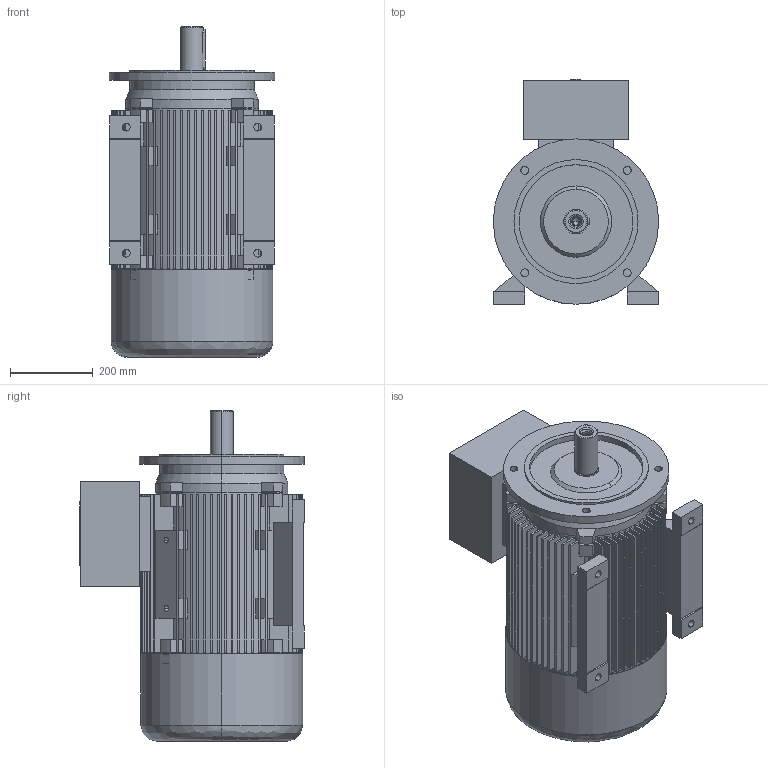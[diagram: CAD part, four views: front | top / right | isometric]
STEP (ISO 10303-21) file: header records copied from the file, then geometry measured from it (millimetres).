
FILE_DESCRIPTION (( 'STEP AP203' ), '1' );
FILE_NAME ('20.18424_C 7AT 200 B35 Exd STANDK.STEP', '2018-05-21T12:58:40', ( '' ), ( '' ), 'SwSTEP 2.0', 'SolidWorks 2017', '' );
FILE_SCHEMA (( 'CONFIG_CONTROL_DESIGN' ));
Length unit declared in the file: millimetre
Products named in the file (1): 20.18424_C 7AT 200 B35 Exd STANDK
Bounding box: 400 x 544 x 800 mm (x, y, z)
Volume: 32183097.8 mm3; surface area: 4415883.6 mm2
Topology: 6 solids, 6 shells, 813 faces, 2189 edges, 1433 vertices
Faces by surface type: plane 572, cylinder 190, cone 38, bspline 13
Entity records: 26139 total; most frequent: CARTESIAN_POINT 5251, DIRECTION 4357, ORIENTED_EDGE 4342, EDGE_CURVE 2171, VECTOR 1503, LINE 1503, VERTEX_POINT 1433, AXIS2_PLACEMENT_3D 1427
